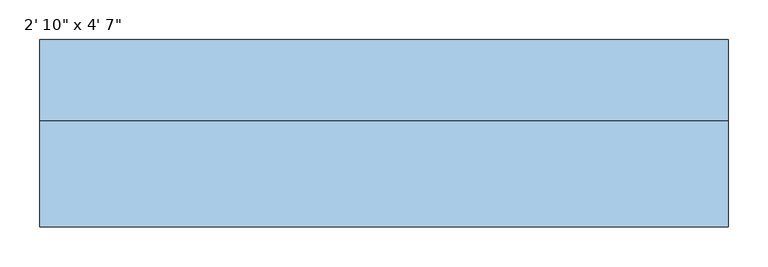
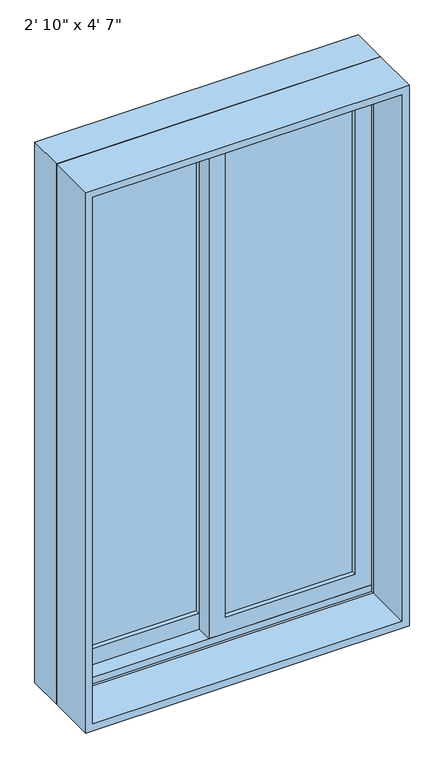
"""IFC4 building model written with IfcOpenShell, lengths in millimetres: window geometry."""

from ifc_helpers import new_model, si_unit, frame, origin, place, context, project, spatial, polyline, outline, extrude, faceted_brep, source, transform, mapped, element, save


def window_d69bee4a(model_context):
    return source(origin(), model_context, "Body", "SolidModel", [
        extrude(outline(polyline([(933.45, -412.75), (933.45, 22.225), (2419.35, 22.225), (2419.35, -412.75), (933.45, -412.75)]), holes=[polyline([(2374.9, -22.225), (996.95, -22.225), (996.95, -368.3), (2374.9, -368.3), (2374.9, -22.225)])]), frame((0.0, 72.39, 0.0), z_axis=(0.0, 1.0, 0.0), x_axis=(0.0, 0.0, 1.0)), (0.0, 0.0, 1.0), 44.45),
        extrude(outline(polyline([(952.5, 412.75), (2419.35, 412.75), (2419.35, -22.225), (952.5, -22.225), (952.5, 412.75)]), holes=[polyline([(996.95, 22.225), (2374.9, 22.225), (2374.9, 368.3), (996.95, 368.3), (996.95, 22.225)])]), frame((0.0, 27.94, 0.0), z_axis=(0.0, 1.0, 0.0), x_axis=(0.0, 0.0, 1.0)), (0.0, 0.0, 1.0), 44.45),
        faceted_brep([(-431.8, 21.59, 914.4), (-431.8, 123.19, 914.4), (431.8, 123.19, 914.4), (431.8, 21.59, 914.4), (-390.8778905, 123.19, 2397.4778905), (-390.8778905, 116.84, 2397.4778905), (-390.8778905, 116.84, 933.45), (-390.8778905, 123.19, 933.45), (390.8778905, 116.84, 2397.4778905), (390.8778905, 116.84, 933.45), (412.75, 116.84, 933.45), (412.75, 116.84, 2419.35), (-412.75, 116.84, 2419.35), (-412.75, 116.84, 933.45), (-412.75, 21.59, 2419.35), (-412.75, 21.59, 933.45), (-412.75, 27.94, 933.45), (-412.75, 27.94, 952.5), (-412.75, 72.39, 952.5), (-412.75, 72.39, 933.45), (431.8, 21.59, 2438.4), (-431.8, 21.59, 2438.4), (412.75, 21.59, 2419.35), (412.75, 21.59, 933.45), (-431.8, 123.19, 2438.4), (431.8, 123.19, 2438.4), (390.8778905, 123.19, 933.45), (390.8778905, 123.19, 2397.4778905), (412.75, 72.39, 933.45), (412.75, 72.39, 952.5), (412.75, 27.94, 952.5), (412.75, 27.94, 933.45)], [[[0, 1, 2, 3]], [[4, 5, 6, 7]], [[5, 8, 9, 10, 11, 12, 13, 6]], [[12, 14, 15, 16, 17, 18, 19, 13]], [[0, 3, 20, 21], [22, 23, 15, 14]], [[24, 1, 0, 21]], [[2, 1, 24, 25], [4, 7, 26, 27]], [[5, 4, 27, 8]], [[12, 11, 22, 14]], [[21, 20, 25, 24]], [[8, 27, 26, 9]], [[22, 11, 10, 28, 29, 30, 31, 23]], [[20, 3, 2, 25]], [[26, 7, 6, 13, 19, 28, 10, 9]], [[28, 19, 18, 29]], [[29, 18, 17, 30]], [[30, 17, 16, 31]], [[15, 23, 31, 16]]]),
        extrude(outline(polyline([(2438.4, -431.8), (914.4, -431.8), (914.4, 431.8), (2438.4, 431.8), (2438.4, -431.8)]), holes=[polyline([(2419.35, 412.75), (933.45, 412.75), (933.45, -412.75), (2419.35, -412.75), (2419.35, 412.75)])]), frame((0.0, -111.76, 0.0), z_axis=(0.0, 1.0, 0.0), x_axis=(0.0, 0.0, 1.0)), (0.0, 0.0, 1.0), 133.35),
        extrude(outline(polyline([(368.3, 59.69), (368.3, 53.34), (22.225, 53.34), (22.225, 59.69), (368.3, 59.69)])), frame((0.0, 0.0, 996.95), z_axis=(0.0, 0.0, 1.0), x_axis=(1.0, 0.0, 0.0)), (0.0, 0.0, 1.0), 1377.95),
        extrude(outline(polyline([(368.3, 46.99), (368.3, 40.64), (22.225, 40.64), (22.225, 46.99), (368.3, 46.99)])), frame((0.0, 0.0, 996.95), z_axis=(0.0, 0.0, 1.0), x_axis=(1.0, 0.0, 0.0)), (0.0, 0.0, 1.0), 1377.95),
        extrude(outline(polyline([(-22.225, 104.14), (-22.225, 97.79), (-368.3, 97.79), (-368.3, 104.14), (-22.225, 104.14)])), frame((0.0, 0.0, 996.95), z_axis=(0.0, 0.0, 1.0), x_axis=(1.0, 0.0, 0.0)), (0.0, 0.0, 1.0), 1377.95),
        extrude(outline(polyline([(-22.225, 91.44), (-22.225, 85.09), (-368.3, 85.09), (-368.3, 91.44), (-22.225, 91.44)])), frame((0.0, 0.0, 996.95), z_axis=(0.0, 0.0, 1.0), x_axis=(1.0, 0.0, 0.0)), (0.0, 0.0, 1.0), 1377.95),
    ])


if __name__ == "__main__":
    model = new_model("IFC4")
    model_context = context("Model", 3, world=origin())
    ifc_project = project(units=[si_unit("LENGTHUNIT", "METRE", prefix="MILLI")], contexts=[model_context])
    site = spatial("IfcSite", under=ifc_project)
    building = spatial("IfcBuilding", under=site)
    placement = place(None, origin())
    window_shape = window_d69bee4a(model_context)
    element("IfcWindow", 1, ObjectType="Planitar-Sliding-Double : 2' 10\" x 4' 7\"", at=placement, inside=building, context=model_context, shape_type="MappedRepresentation", body=[
        mapped(window_shape, transform((0.0, 0.0, 0.0), x_axis=(1.0, 0.0, 0.0), y_axis=(0.0, 1.0, 0.0), z_axis=(0.0, 0.0, 1.0))),
    ])
    save(model, "model.ifc")
